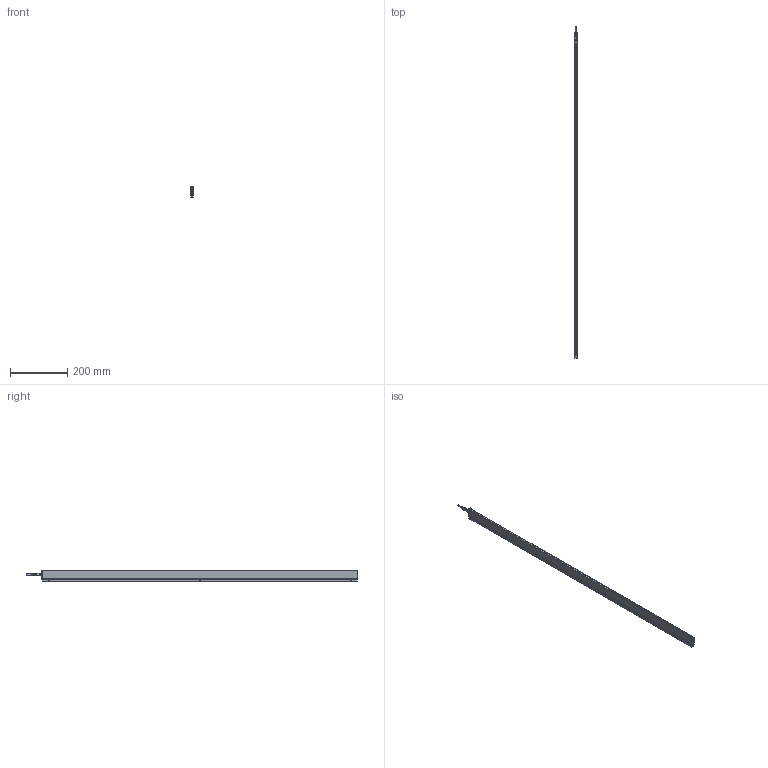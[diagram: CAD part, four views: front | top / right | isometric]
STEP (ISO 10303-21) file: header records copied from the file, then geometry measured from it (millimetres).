
FILE_DESCRIPTION (( 'STEP AP214' ), '1' );
FILE_NAME ('ILG-L-K2-1110mm.STEP', '2017-07-11T07:58:55', ( '' ), ( '' ), 'SwSTEP 2.0', 'SolidWorks 2016', '' );
FILE_SCHEMA (( 'AUTOMOTIVE_DESIGN' ));
Length unit declared in the file: millimetre
Products named in the file (1): ILG-L-K2-1110mm
Bounding box: 9 x 1164.5 x 40.71 mm (x, y, z)
Surface area: 221577 mm2 (no closed solid volume)
Topology: 0 solids, 13 shells, 679 faces, 1780 edges, 1131 vertices
Faces by surface type: cylinder 286, plane 255, cone 90, bspline 32, torus 16
Entity records: 30532 total; most frequent: CARTESIAN_POINT 6477, ORIENTED_EDGE 3513, DIRECTION 3392, EDGE_CURVE 1764, AXIS2_PLACEMENT_3D 1295, VERTEX_POINT 1131, LINE 802, VECTOR 802
